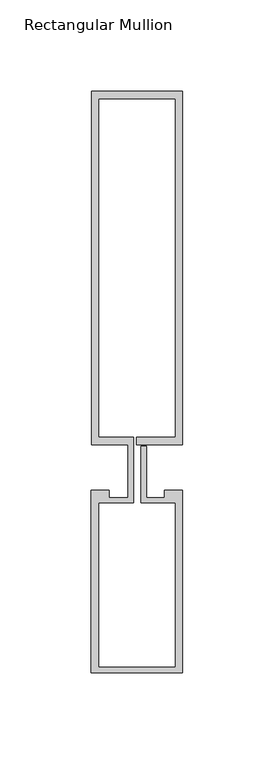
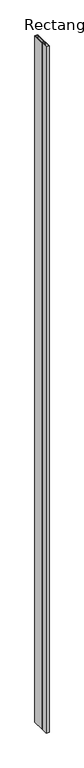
"""IFC4 building model written with IfcOpenShell, lengths in millimetres: member geometry, Rectangular Mullion : Reynaers_CW-50_Mullion-Transom_Horizontal_193.4mm_Facecap-02D."""

import ifcopenshell
import ifcopenshell.guid

model = None  # the IFC model being written
_history = None  # IfcOwnerHistory: only IFC2X3 demands one
_inside = {}  # id of a spatial element -> (the spatial element, [elements in it])
_under = {}  # id of a project, library or spatial element -> (it, [spatial elements below it])
_declared = {}  # id of a project -> (the project, [libraries it declares])
_typed = {}  # id of a type object -> (the type object, [elements of that type])
_made_of = {}  # id of a material, layer set ... -> (it, [elements and type objects made of it])


def new_model(schema):
    """Start an empty IFC model of exactly this schema.

    Asked for "IFC4X3", IfcOpenShell would pick the latest addendum, in which some entities
    have other attributes; the version numbers below select the first issue.
    IFC2X3 requires an IfcOwnerHistory on every rooted entity: one is made here for all.
    """
    global model, _history
    if schema == "IFC4X3":
        model = ifcopenshell.file(schema_version=(4, 3, 0, 0))
    else:
        model = ifcopenshell.file(schema=schema)
    _inside.clear()
    _under.clear()
    _declared.clear()
    _typed.clear()
    _made_of.clear()
    _history = None
    if model.schema == "IFC2X3":
        org = make("IfcOrganization", Name="unknown")
        user = make(
            "IfcPersonAndOrganization",
            ThePerson=make("IfcPerson", FamilyName="unknown"),
            TheOrganization=org,
        )
        app = make(
            "IfcApplication",
            ApplicationDeveloper=org,
            Version="unknown",
            ApplicationFullName="unknown",
            ApplicationIdentifier="unknown",
        )
        _history = make(
            "IfcOwnerHistory",
            OwningUser=user,
            OwningApplication=app,
            ChangeAction="ADDED",
            CreationDate=0,
        )
    return model


def make(cls, **values):
    """One entity of the class cls with the attributes given. An attribute that is None is left unset."""
    return model.create_entity(
        cls, **{name: value for name, value in values.items() if value is not None}
    )


def rooted(cls, **values):
    """An entity with a GlobalId (a new one), such as an element, a storey or a relation."""
    return make(cls, GlobalId=ifcopenshell.guid.new(), OwnerHistory=_history, **values)


def si_unit(unit_type, name, prefix=None):
    """IfcSIUnit, for example si_unit("LENGTHUNIT", "METRE", prefix="MILLI")."""
    return make("IfcSIUnit", UnitType=unit_type, Prefix=prefix, Name=name)


def assignment(units):
    """IfcUnitAssignment: the units of a project."""
    return None if units is None else make("IfcUnitAssignment", Units=units)


def point(xyz):
    """IfcCartesianPoint."""
    return None if xyz is None else make("IfcCartesianPoint", Coordinates=xyz)


def direction(xyz):
    """IfcDirection."""
    return None if xyz is None else make("IfcDirection", DirectionRatios=xyz)


def frame(location, z_axis=None, x_axis=None):
    """IfcAxis2Placement3D, a coordinate frame: its origin and axes. An axis left out is left unset."""
    return make(
        "IfcAxis2Placement3D",
        Location=point(location),
        Axis=direction(z_axis),
        RefDirection=direction(x_axis),
    )


def origin():
    """The frame at (0, 0, 0) with its axes left unset."""
    return frame((0.0, 0.0, 0.0))


def place(relative_to, where):
    """IfcLocalPlacement: puts the frame where relative to a parent placement (None: the world)."""
    return make(
        "IfcLocalPlacement", PlacementRelTo=relative_to, RelativePlacement=where
    )


def context(
    kind, dimensions, precision=None, world=None, true_north=None, identifier=None
):
    """IfcGeometricRepresentationContext, for example the 3D "Model" context."""
    return make(
        "IfcGeometricRepresentationContext",
        ContextIdentifier=identifier,
        ContextType=kind,
        CoordinateSpaceDimension=dimensions,
        Precision=precision,
        WorldCoordinateSystem=world,
        TrueNorth=true_north,
    )


def project(units=None, contexts=None):
    """IfcProject with its units and contexts."""
    return rooted(
        "IfcProject",
        Name="project",
        RepresentationContexts=contexts,
        UnitsInContext=assignment(units),
    )


def spatial(cls, under=None, at=None, **own):
    """A site, building, storey or space (cls), placed at a placement, below another one or the project."""
    s = rooted(cls, ObjectPlacement=at, **own)
    if under is not None:
        _under.setdefault(under.id(), (under, []))[1].append(s)
    return s


def polyline(points):
    """IfcPolyline through the points."""
    return make("IfcPolyline", Points=[point(p) for p in points])


def outline(outer, holes=None, kind="AREA"):
    """IfcArbitraryClosedProfileDef: a profile drawn as a closed curve; with holes, ...WithVoids."""
    if holes is None:
        return make("IfcArbitraryClosedProfileDef", ProfileType=kind, OuterCurve=outer)
    return make(
        "IfcArbitraryProfileDefWithVoids",
        ProfileType=kind,
        OuterCurve=outer,
        InnerCurves=holes,
    )


def extrude(swept, where, along, depth):
    """IfcExtrudedAreaSolid: the profile swept, set in the frame where, extruded along a direction by depth."""
    return make(
        "IfcExtrudedAreaSolid",
        SweptArea=swept,
        Position=where,
        ExtrudedDirection=direction(along),
        Depth=depth,
    )


def shape(context_of_items, identifier, shape_type, items):
    """IfcShapeRepresentation: the items that make up one representation, for example the "Body"."""
    return make(
        "IfcShapeRepresentation",
        ContextOfItems=context_of_items,
        RepresentationIdentifier=identifier,
        RepresentationType=shape_type,
        Items=items,
    )


def source(mapping_origin, context_of_items, identifier, shape_type, items):
    """IfcRepresentationMap: a shape defined once, which mapped items show again and again."""
    return make(
        "IfcRepresentationMap",
        MappingOrigin=mapping_origin,
        MappedRepresentation=shape(context_of_items, identifier, shape_type, items),
    )


def transform(
    local_origin,
    x_axis=None,
    y_axis=None,
    z_axis=None,
    scale=None,
    scale2=None,
    scale3=None,
    uniform=True,
):
    """IfcCartesianTransformationOperator3D, or its non-uniform kind. x_axis, y_axis, z_axis: its Axis1, 2, 3."""
    if uniform:
        return make(
            "IfcCartesianTransformationOperator3D",
            Axis1=direction(x_axis),
            Axis2=direction(y_axis),
            LocalOrigin=point(local_origin),
            Scale=scale,
            Axis3=direction(z_axis),
        )
    return make(
        "IfcCartesianTransformationOperator3DnonUniform",
        Axis1=direction(x_axis),
        Axis2=direction(y_axis),
        LocalOrigin=point(local_origin),
        Scale=scale,
        Axis3=direction(z_axis),
        Scale2=scale2,
        Scale3=scale3,
    )


def mapped(mapping_source, mapping_target):
    """IfcMappedItem: shows the shape of a source again, moved by a transform."""
    return make(
        "IfcMappedItem", MappingSource=mapping_source, MappingTarget=mapping_target
    )


def made_of(thing, what):
    """Note that an element or type object is made of a material, layer set ...; save() writes the relation."""
    if what is not None:
        _made_of.setdefault(what.id(), (what, []))[1].append(thing)
    return thing


def element(
    cls,
    number,
    at=None,
    inside=None,
    cuts=None,
    type_object=None,
    material=None,
    context=None,
    identifier="Body",
    shape_type=None,
    held_by="IfcProductDefinitionShape",
    body=None,
    shapes=None,
    **own,
):
    """One element of the class cls, such as IfcWall. Its Tag is "e" and its number.

    at: its placement. inside: the storey or other place that contains it. cuts: it is an
    opening in that element (IfcRelVoidsElement). A single representation is given by context,
    identifier, shape_type and body (its items); several are given by shapes. held_by: the class
    of the entity that holds the representations. save() writes the other relations.
    """
    e = rooted(cls, Tag="e%d" % number, ObjectPlacement=at, **own)
    if body is not None:
        shapes = [shape(context, identifier, shape_type, body)]
    if shapes is not None:
        e.Representation = make(held_by, Representations=shapes)
    if inside is not None:
        _inside.setdefault(inside.id(), (inside, []))[1].append(e)
    if cuts is not None:
        rooted(
            "IfcRelVoidsElement", RelatingBuildingElement=cuts, RelatedOpeningElement=e
        )
    if type_object is not None:
        _typed.setdefault(type_object.id(), (type_object, []))[1].append(e)
    return made_of(e, material)


def aggregate(whole, parts):
    """IfcRelAggregates: a whole, such as a stair, and the parts it consists of."""
    return rooted("IfcRelAggregates", RelatingObject=whole, RelatedObjects=parts)


def save(model, path):
    """Write the relations noted so far, then the file.

    IfcRelAggregates (storeys below a building ...), IfcRelContainedInSpatialStructure (elements
    in a storey), IfcRelDefinesByType, IfcRelAssociatesMaterial and IfcRelDeclares: one each for
    every whole, place, type object, material and project.
    """
    for whole, parts in _under.values():
        aggregate(whole, parts)
    for where, things in _inside.values():
        rooted(
            "IfcRelContainedInSpatialStructure",
            RelatedElements=things,
            RelatingStructure=where,
        )
    for kind, things in _typed.values():
        rooted("IfcRelDefinesByType", RelatedObjects=things, RelatingType=kind)
    for what, things in _made_of.values():
        rooted("IfcRelAssociatesMaterial", RelatedObjects=things, RelatingMaterial=what)
    for by, libraries in _declared.values():
        rooted("IfcRelDeclares", RelatingContext=by, RelatedDefinitions=libraries)
    model.write(path)


def rectangular_mullion_d78a1f7d(model_context):
    return source(origin(), model_context, "Body", "SweptSolid", [
        extrude(outline(polyline([(-24.8004059, 205.9), (25.1995941, 205.9), (25.1995941, 12.5), (0.0, 12.5), (0.0, 16.5), (21.1995941, 16.5), (21.1995941, 201.9), (-20.8004059, 201.9), (-20.8004059, 16.5), (-1.9004059, 16.5), (-1.9004059, -19.5), (-20.994845, -19.5), (-20.994845, -109.4191338), (21.1995941, -109.4191338), (21.1995941, -19.5), (2.2995941, -19.5), (2.2995941, 11.5), (5.2995941, 11.5), (5.2995941, -16.5), (15.2996495, -16.5), (15.2996495, -12.5), (25.1995941, -12.5), (25.1995941, -112.5), (-24.994845, -112.5), (-24.994845, -12.5), (-15.2996495, -12.5), (-15.2996495, -16.5), (-4.9004059, -16.5), (-4.9004059, 12.5), (-24.8004059, 12.5), (-24.8004059, 205.9)])), frame((0.0, 0.0, -12000.0), z_axis=(0.0, 0.0, 1.0), x_axis=(1.0, 0.0, 0.0)), (0.0, 0.0, 1.0), 12000.0),
    ])


if __name__ == "__main__":
    model = new_model("IFC4")
    model_context = context("Model", 3, world=origin())
    ifc_project = project(units=[si_unit("LENGTHUNIT", "METRE", prefix="MILLI")], contexts=[model_context])
    site = spatial("IfcSite", under=ifc_project)
    building = spatial("IfcBuilding", under=site)
    placement = place(None, origin())
    rectangular_mullion_shape = rectangular_mullion_d78a1f7d(model_context)
    element("IfcMember", 1, ObjectType="Rectangular Mullion : Reynaers_CW-50_Mullion-Transom_Horizontal_193.4mm_Facecap-02D", at=placement, inside=building, context=model_context, shape_type="MappedRepresentation", body=[
        mapped(rectangular_mullion_shape, transform((0.0, 0.0, 0.0), x_axis=(1.0, 0.0, 0.0), y_axis=(0.0, 1.0, 0.0), z_axis=(0.0, 0.0, 1.0))),
    ])
    save(model, "model.ifc")
